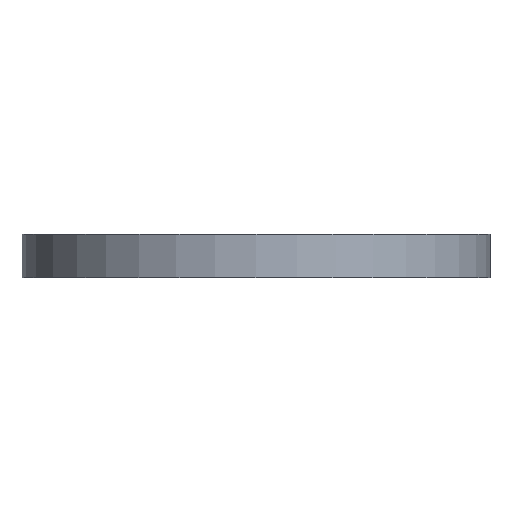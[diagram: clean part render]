
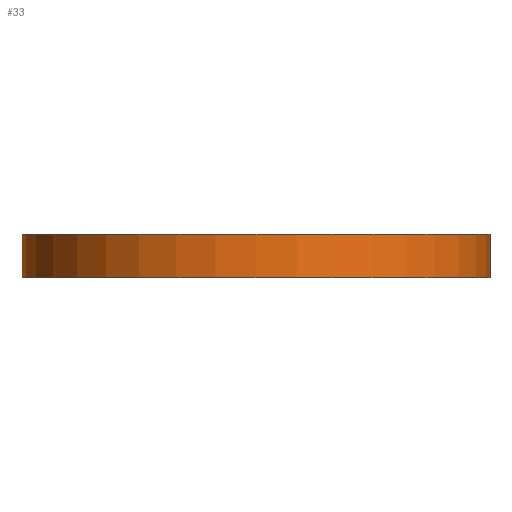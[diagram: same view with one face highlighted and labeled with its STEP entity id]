
A CAD part, front view. The second image highlights one B-rep face of the part: STEP entity #33.
In plain terms, the highlighted cylindrical face has radius 290 mm (diameter 580 mm), a partial arc.
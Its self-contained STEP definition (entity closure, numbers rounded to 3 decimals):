
#19 = CIRCLE ( 'NONE', #21, 290. ) ;
#21 = AXIS2_PLACEMENT_3D ( 'NONE', #697, #696, #695 ) ;
#33 = ADVANCED_FACE ( 'NONE', ( #805 ), #804, .T. ) ;
#38 = AXIS2_PLACEMENT_3D ( 'NONE', #803, #802, #800 ) ;
#130 = EDGE_CURVE ( 'NONE', #1078, #915, #762, .T. ) ;
#153 = CARTESIAN_POINT ( 'NONE',  ( -290., 0., -54. ) ) ;
#209 = EDGE_CURVE ( 'NONE', #1267, #970, #731, .T. ) ;
#299 = EDGE_CURVE ( 'NONE', #1078, #1267, #19, .T. ) ;
#333 = VECTOR ( 'NONE', #729, 1000. ) ;
#351 = CARTESIAN_POINT ( 'NONE',  ( 290., 0., -54. ) ) ;
#449 = VECTOR ( 'NONE', #760, 1000. ) ;
#458 = DIRECTION ( 'NONE',  ( 1., 0., 0. ) ) ;
#459 = DIRECTION ( 'NONE',  ( 0., 0., 1. ) ) ;
#460 = CARTESIAN_POINT ( 'NONE',  ( 0., 0., 0. ) ) ;
#485 = CARTESIAN_POINT ( 'NONE',  ( -290., 0., 0. ) ) ;
#535 = CARTESIAN_POINT ( 'NONE',  ( 290., 0., 0. ) ) ;
#695 = DIRECTION ( 'NONE',  ( -1., 0., 0. ) ) ;
#696 = DIRECTION ( 'NONE',  ( 0., 0., -1. ) ) ;
#697 = CARTESIAN_POINT ( 'NONE',  ( 0., 0., -54. ) ) ;
#729 = DIRECTION ( 'NONE',  ( 0., 0., 1. ) ) ;
#730 = CARTESIAN_POINT ( 'NONE',  ( -290., 0., -135. ) ) ;
#731 = LINE ( 'NONE', #730, #333 ) ;
#760 = DIRECTION ( 'NONE',  ( 0., 0., 1. ) ) ;
#761 = CARTESIAN_POINT ( 'NONE',  ( 290., 0., -135. ) ) ;
#762 = LINE ( 'NONE', #761, #449 ) ;
#800 = DIRECTION ( 'NONE',  ( 1., 0., 0. ) ) ;
#802 = DIRECTION ( 'NONE',  ( 0., 0., 1. ) ) ;
#803 = CARTESIAN_POINT ( 'NONE',  ( 0., 0., -135. ) ) ;
#804 = CYLINDRICAL_SURFACE ( 'NONE', #38, 290. ) ;
#805 = FACE_OUTER_BOUND ( 'NONE', #888, .T. ) ;
#888 = EDGE_LOOP ( 'NONE', ( #1131, #1132, #1134, #1136 ) ) ;
#889 = CIRCLE ( 'NONE', #891, 290. ) ;
#891 = AXIS2_PLACEMENT_3D ( 'NONE', #460, #459, #458 ) ;
#915 = VERTEX_POINT ( 'NONE', #535 ) ;
#970 = VERTEX_POINT ( 'NONE', #485 ) ;
#993 = EDGE_CURVE ( 'NONE', #970, #915, #889, .T. ) ;
#1078 = VERTEX_POINT ( 'NONE', #351 ) ;
#1131 = ORIENTED_EDGE ( 'NONE', *, *, #209, .F. ) ;
#1132 = ORIENTED_EDGE ( 'NONE', *, *, #299, .F. ) ;
#1134 = ORIENTED_EDGE ( 'NONE', *, *, #130, .T. ) ;
#1136 = ORIENTED_EDGE ( 'NONE', *, *, #993, .F. ) ;
#1267 = VERTEX_POINT ( 'NONE', #153 ) ;
